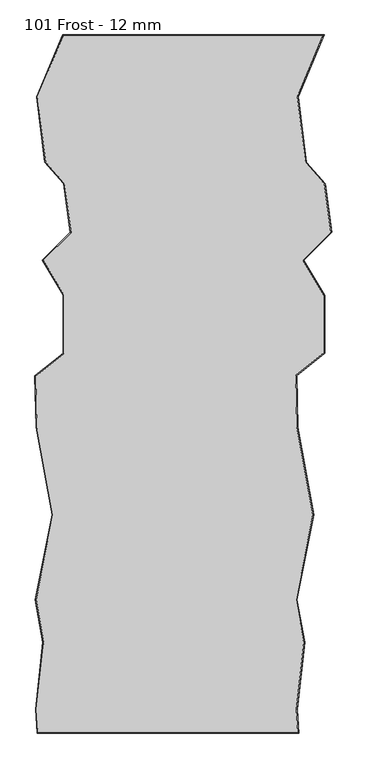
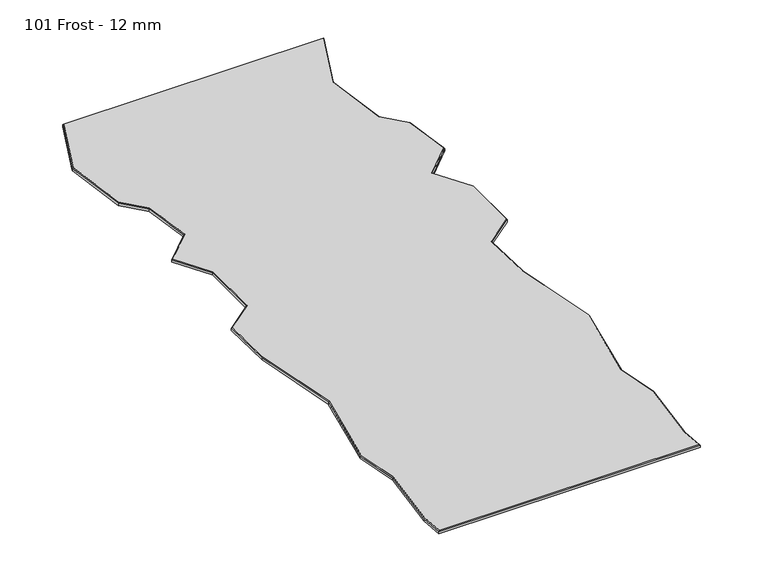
"""IFC4 building model written with IfcOpenShell, lengths in millimetres: proxy geometry, Wall-Panel-Kirei_USA-EchoLine-Crackle_Panels : 101 Frost - 12 mm."""

from ifc_helpers import new_model, si_unit, origin, place, context, project, spatial, faceted_brep, source, transform, mapped, element, save


def proxy_101_frost_12_mm_5003fc06(model_context):
    return source(origin(), model_context, "Body", "Brep", [
        faceted_brep([(-498.729076, 1368.425, 12.0054687), (-599.8427838, 1127.8884392, 12.0054687), (-567.5272738, 872.0482803, 12.0054687), (-493.9852239, 788.5730833, 12.0054687), (-467.7578154, 594.5535303, 12.0054687), (-577.159964, 486.1108916, 12.0054687), (-496.0235508, 350.3940417, 12.0054687), (-496.0235508, 119.7266366, 12.0054687), (-606.392374, 30.5588704, 12.0054687), (-602.1146014, -169.2907149, 12.0054687), (-538.7981411, -513.7414231, 12.0054687), (-604.891334, -847.8026402, 12.0054687), (-574.6106544, -1015.4239307, 12.0054687), (-603.3762015, -1278.3224988, 12.0054687), (-598.1894704, -1368.425, 12.0054687), (425.2834429, -1368.425, 12.0054687), (420.0872709, -1278.1584935, 12.0054687), (448.8103981, -1015.647616, 12.0054687), (418.4796181, -847.7489901, 12.0054687), (484.5708525, -513.6976719, 12.0054687), (421.3811995, -169.9368133, 12.0054687), (417.0257996, 33.5393704, 12.0054687), (527.4598749, 122.7598543, 12.0054687), (527.4598749, 348.6406372, 12.0054687), (444.6717438, 487.120315, 12.0054687), (555.3591813, 596.8369699, 12.0054687), (529.812925, 785.8176394, 12.0054687), (456.2508726, 869.3155407, 12.0054687), (423.4774831, 1128.7807069, 12.0054687), (524.2161107, 1368.425, 12.0054687), (-601.1869584, -1371.6, 0.0), (-606.5611782, -1278.2404961, 0.0), (-577.816841, -1015.5357734, 0.0), (-608.1225708, -847.7758152, 0.0), (-542.0303571, -513.7195475, 0.0), (-605.2834138, -169.6137641, 0.0), (-609.6, 32.0491204, 0.0), (-499.1985508, 121.2432454, 0.0), (-499.1985508, 349.5173394, 0.0), (-581.1608229, 486.6156033, 0.0), (-471.1160299, 595.6952501, 0.0), (-497.0028623, 787.1953613, 0.0), (-570.5549134, 870.6819105, 0.0), (-603.0993632, 1128.334573, 0.0), (-500.8385293, 1371.6, 0.0), (528.9948964, 1371.6, 0.0), (426.7340624, 1128.334573, 0.0), (459.2785122, 870.6819105, 0.0), (532.8305634, 787.1953613, 0.0), (558.7173958, 595.6952501, 0.0), (448.6726028, 486.6156033, 0.0), (530.6348749, 349.5173394, 0.0), (530.6348749, 121.2432454, 0.0), (420.2334256, 32.0491204, 0.0), (424.5500119, -169.6137641, 0.0), (487.8030685, -513.7195475, 0.0), (421.7108548, -847.7758152, 0.0), (452.0165847, -1015.5357734, 0.0), (423.2722475, -1278.2404961, 0.0), (428.6464673, -1371.6, 0.0), (428.6464673, -1371.6, 8.8304687), (-601.1869584, -1371.6, 8.8304687), (423.2722475, -1278.2404961, 8.8304687), (452.0165847, -1015.5357734, 8.8304687), (421.7108548, -847.7758152, 8.8304687), (487.8030685, -513.7195475, 8.8304687), (424.5500119, -169.6137641, 8.8304687), (420.2334256, 32.0491204, 8.8304687), (530.6348749, 121.2432454, 8.8304687), (530.6348749, 349.5173394, 8.8304687), (448.6726028, 486.6156033, 8.8304687), (558.7173958, 595.6952501, 8.8304687), (532.8305634, 787.1953613, 8.8304687), (459.2785122, 870.6819105, 8.8304687), (426.7340624, 1128.334573, 8.8304687), (528.9948964, 1371.6, 8.8304687), (-500.8385293, 1371.6, 8.8304687), (-603.0993632, 1128.334573, 8.8304687), (-570.5549134, 870.6819105, 8.8304687), (-497.0028623, 787.1953613, 8.8304687), (-471.1160299, 595.6952501, 8.8304687), (-581.1608229, 486.6156033, 8.8304687), (-499.1985508, 349.5173394, 8.8304687), (-499.1985508, 121.2432454, 8.8304687), (-609.6, 32.0491204, 8.8304687), (-605.2834138, -169.6137641, 8.8304687), (-542.0303571, -513.7195475, 8.8304687), (-608.1225708, -847.7758152, 8.8304687), (-577.816841, -1015.5357734, 8.8304687), (-606.5611782, -1278.2404961, 8.8304687)], [[[0, 1, 2, 3, 4, 5, 6, 7, 8, 9, 10, 11, 12, 13, 14, 15, 16, 17, 18, 19, 20, 21, 22, 23, 24, 25, 26, 27, 28, 29]], [[30, 31, 32, 33, 34, 35, 36, 37, 38, 39, 40, 41, 42, 43, 44, 45, 46, 47, 48, 49, 50, 51, 52, 53, 54, 55, 56, 57, 58, 59]], [[30, 59, 60, 61]], [[59, 58, 62, 60]], [[58, 57, 63, 62]], [[57, 56, 64, 63]], [[56, 55, 65, 64]], [[55, 54, 66, 65]], [[54, 53, 67, 66]], [[53, 52, 68, 67]], [[52, 51, 69, 68]], [[51, 50, 70, 69]], [[50, 49, 71, 70]], [[49, 48, 72, 71]], [[48, 47, 73, 72]], [[47, 46, 74, 73]], [[46, 45, 75, 74]], [[45, 44, 76, 75]], [[44, 43, 77, 76]], [[43, 42, 78, 77]], [[42, 41, 79, 78]], [[41, 40, 80, 79]], [[40, 39, 81, 80]], [[39, 38, 82, 81]], [[38, 37, 83, 82]], [[37, 36, 84, 83]], [[36, 35, 85, 84]], [[35, 34, 86, 85]], [[34, 33, 87, 86]], [[33, 32, 88, 87]], [[32, 31, 89, 88]], [[31, 30, 61, 89]], [[77, 1, 0, 76]], [[1, 77, 78, 2]], [[2, 78, 79, 3]], [[3, 79, 80, 4]], [[4, 80, 81, 5]], [[5, 81, 82, 6]], [[6, 82, 83, 7]], [[7, 83, 84, 8]], [[8, 84, 85, 9]], [[9, 85, 86, 10]], [[10, 86, 87, 11]], [[11, 87, 88, 12]], [[12, 88, 89, 13]], [[13, 89, 61, 14]], [[14, 61, 60, 15]], [[15, 60, 62, 16]], [[16, 62, 63, 17]], [[17, 63, 64, 18]], [[18, 64, 65, 19]], [[19, 65, 66, 20]], [[20, 66, 67, 21]], [[21, 67, 68, 22]], [[22, 68, 69, 23]], [[23, 69, 70, 24]], [[24, 70, 71, 25]], [[25, 71, 72, 26]], [[26, 72, 73, 27]], [[27, 73, 74, 28]], [[28, 74, 75, 29]], [[76, 0, 29, 75]]]),
    ])


if __name__ == "__main__":
    model = new_model("IFC4")
    model_context = context("Model", 3, world=origin())
    ifc_project = project(units=[si_unit("LENGTHUNIT", "METRE", prefix="MILLI")], contexts=[model_context])
    site = spatial("IfcSite", under=ifc_project)
    building = spatial("IfcBuilding", under=site)
    placement = place(None, origin())
    proxy_101_frost_12_mm_shape = proxy_101_frost_12_mm_5003fc06(model_context)
    element("IfcBuildingElementProxy", 1, Name="Wall-Panel-Kirei_USA-EchoLine-Crackle_Panels : 101 Frost - 12 mm", ObjectType="Wall-Panel-Kirei_USA-EchoLine-Crackle_Panels : 101 Frost - 12 mm", at=placement, inside=building, context=model_context, shape_type="MappedRepresentation", body=[
        mapped(proxy_101_frost_12_mm_shape, transform((0.0, 0.0, 0.0), x_axis=(1.0, 0.0, 0.0), y_axis=(0.0, 1.0, 0.0), z_axis=(0.0, 0.0, 1.0))),
    ])
    save(model, "model.ifc")
